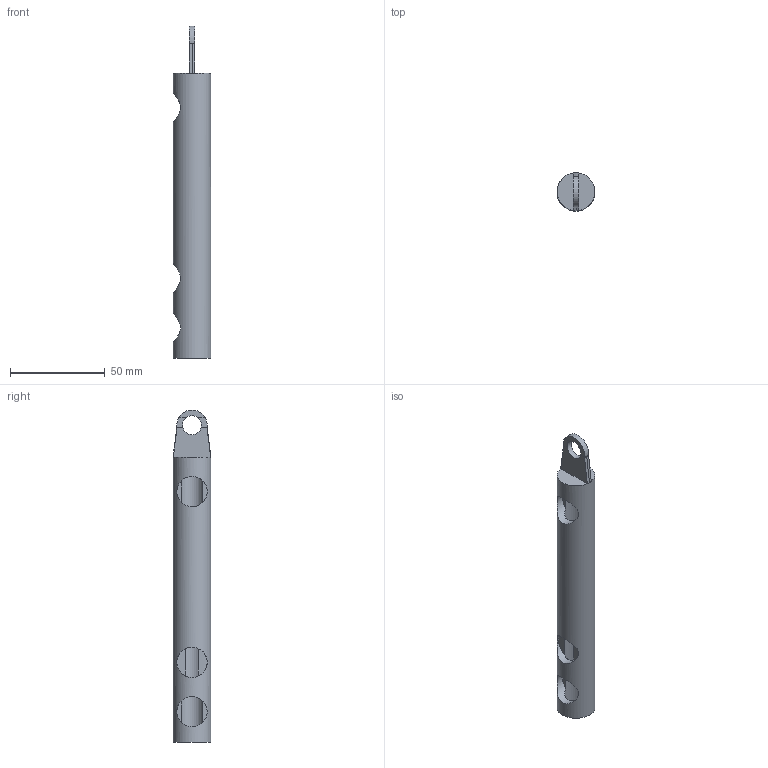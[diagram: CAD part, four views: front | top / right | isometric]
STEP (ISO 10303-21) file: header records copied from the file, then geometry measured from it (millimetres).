
FILE_DESCRIPTION(('FreeCAD Model'),'2;1');
FILE_NAME('E:/TOOLS/Misc/FCall3/CAD/TFT 28 enclosure/Adafruit_2.8__TFT_LCD_Enclosure_with_GoPro_mount/files/tige2.step','2018-11-29T14:59:37',('Author'),(''), 'Open CASCADE STEP processor 7.2','FreeCAD','Unknown');
FILE_SCHEMA(('AUTOMOTIVE_DESIGN { 1 0 10303 214 1 1 1 1 }'));
Length unit declared in the file: millimetre
Products named in the file (1): tige2
Bounding box: 20 x 20 x 175 mm (x, y, z)
Volume: 29412.9 mm3; surface area: 15860.7 mm2
Topology: 1 solids, 1 shells, 31 faces, 86 edges, 56 vertices
Faces by surface type: plane 20, cylinder 8, cone 3
Full cylindrical faces by diameter (mm): 10 x1, 12 x1, 16 x3, 20 x1
Entity records: 1980 total; most frequent: CARTESIAN_POINT 929, DIRECTION 178, ORIENTED_EDGE 172, EDGE_CURVE 86, AXIS2_PLACEMENT_3D 76, VERTEX_POINT 56, FACE_BOUND 38, EDGE_LOOP 38
